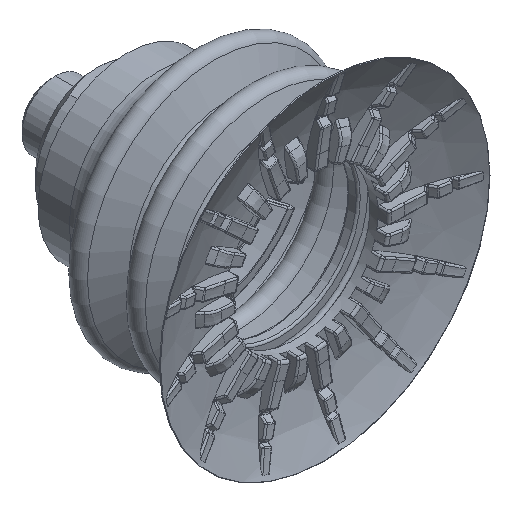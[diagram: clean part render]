
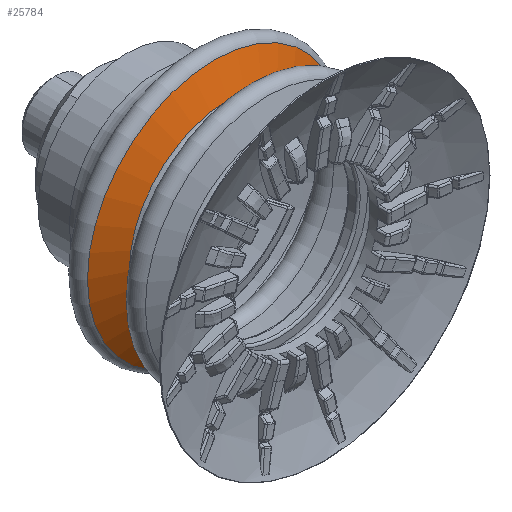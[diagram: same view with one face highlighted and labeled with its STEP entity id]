
A CAD part, isometric view. The second image highlights one B-rep face of the part: STEP entity #25784.
In plain terms, the highlighted conical face has half-angle 64.453 degrees and reference radius 19.4 mm.
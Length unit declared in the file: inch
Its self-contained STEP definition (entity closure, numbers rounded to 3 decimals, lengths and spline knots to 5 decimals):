
#3492 = CIRCLE ( 'NONE', #44348, 0.9833 ) ;
#9010 = EDGE_CURVE ( 'NONE', #56198, #56198, #3492, .T. ) ;
#16570 = DIRECTION ( 'NONE',  ( 1., 0., 0. ) ) ;
#20569 = EDGE_CURVE ( 'NONE', #60594, #60594, #59438, .T. ) ;
#25784 = ADVANCED_FACE ( 'NONE', ( #50200, #55001 ), #66660, .T. ) ;
#26434 = DIRECTION ( 'NONE',  ( 1., 0., 0. ) ) ;
#27833 = AXIS2_PLACEMENT_3D ( 'NONE', #60874, #55747, #16570 ) ;
#28154 = EDGE_LOOP ( 'NONE', ( #66800 ) ) ;
#30455 = AXIS2_PLACEMENT_3D ( 'NONE', #71074, #65582, #26434 ) ;
#33444 = CARTESIAN_POINT ( 'NONE',  ( 0.76376, 0., -0.78208 ) ) ;
#36537 = ORIENTED_EDGE ( 'NONE', *, *, #9010, .F. ) ;
#44348 = AXIS2_PLACEMENT_3D ( 'NONE', #68038, #56701, #62893 ) ;
#45171 = CARTESIAN_POINT ( 'NONE',  ( 0.9833, 0., -0.67714 ) ) ;
#50200 = FACE_BOUND ( 'NONE', #28154, .T. ) ;
#55001 = FACE_OUTER_BOUND ( 'NONE', #58867, .T. ) ;
#55747 = DIRECTION ( 'NONE',  ( 0., 0., 1. ) ) ;
#56198 = VERTEX_POINT ( 'NONE', #45171 ) ;
#56701 = DIRECTION ( 'NONE',  ( 0., 0., 1. ) ) ;
#58867 = EDGE_LOOP ( 'NONE', ( #36537 ) ) ;
#59438 = CIRCLE ( 'NONE', #27833, 0.76376 ) ;
#60594 = VERTEX_POINT ( 'NONE', #33444 ) ;
#60874 = CARTESIAN_POINT ( 'NONE',  ( 0., 0., -0.78208 ) ) ;
#62893 = DIRECTION ( 'NONE',  ( 1., 0., 0. ) ) ;
#65582 = DIRECTION ( 'NONE',  ( 0., 0., 1. ) ) ;
#66660 = CONICAL_SURFACE ( 'NONE', #30455, 0.76376, 1.125 ) ;
#66800 = ORIENTED_EDGE ( 'NONE', *, *, #20569, .T. ) ;
#68038 = CARTESIAN_POINT ( 'NONE',  ( 0., 0., -0.67714 ) ) ;
#71074 = CARTESIAN_POINT ( 'NONE',  ( 0., 0., -0.78208 ) ) ;
